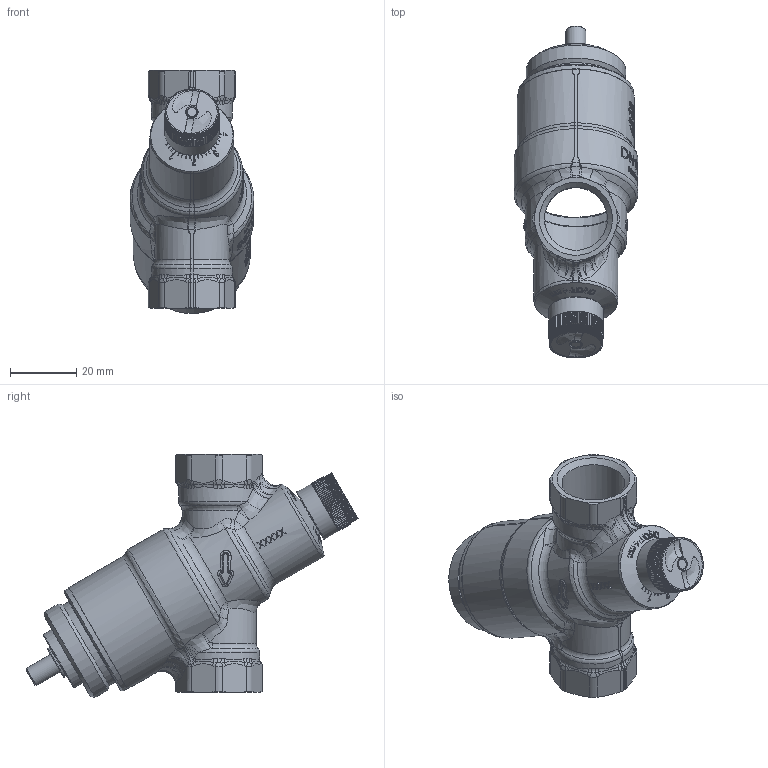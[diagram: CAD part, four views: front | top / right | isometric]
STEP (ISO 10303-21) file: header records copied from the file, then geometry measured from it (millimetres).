
FILE_DESCRIPTION(/* description */ ('Ventil on/off DN15 M/M High'),/* implementation_level */ '2;1');
FILE_NAME(/* name */ 'C:\Users\cbr\Desktop\01-0248.stp',/* time_stamp */ '2019-10-23T10:06:52+02:00',/* author */ ('cbr'),/* organization */ (''),/* preprocessor_version */ 'ST-DEVELOPER v17.2',/* originating_system */ 'Autodesk Inventor 2019',/* authorisation */ '');
FILE_SCHEMA (('AUTOMOTIVE_DESIGN { 1 0 10303 214 3 1 1 }'));
Length unit declared in the file: millimetre
Products named in the file (21): 01-0248; 59774; 901310; 69706; 75609; 68936; 73039-90778; 66591; 66083; 80502; 79168-901310; 73160-901310; 73047; 66592; 80503; 73039-01-02XX; 75315; 67467; 79169; 75612; 91707_01-0248
Assembly tree (22 placements, depth 3):
  01-0248
    59774
    901310
      69706
      75609
      68936
      73039-90778  x2
      66591
      66083
      80502
      79168-901310
      73160-901310
      73047
      66592
      79169
    80503
    73039-01-02XX
    75315
    67467
    79169
    75612
    91707_01-0248
Bounding box: 37.35 x 100.09 x 73.3 mm (x, y, z)
Volume: 36668.3 mm3; surface area: 37798.1 mm2
Topology: 112 solids, 112 shells, 2760 faces, 7256 edges, 4751 vertices
Faces by surface type: plane 1121, bspline 918, cylinder 489, cone 140, torus 74, sphere 18
Full cylindrical faces by diameter (mm): 2 x1, 3 x1, 3.1 x2, 3.2 x2, 3.3 x1, 4 x2, 6 x3, 6.1 x2, 6.2 x5, 6.3 x1, 7 x1, 7.4 x1, 7.5 x2, 8 x1, 9.3 x1, 9.5 x1, 9.6 x2, 10 x3, 11 x2, 11.5 x1, 12 x2, 14.5 x1, 15.6 x1, 16.5 x1, 18.6 x1, 19 x2, 21 x1, 22 x1, 22.3 x1, 23.5 x1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
Entity records: 118270 total; most frequent: CARTESIAN_POINT 54682, ORIENTED_EDGE 14356, DIRECTION 10596, EDGE_CURVE 7178, VERTEX_POINT 4710, AXIS2_PLACEMENT_3D 3638, LINE 3320, VECTOR 3320
